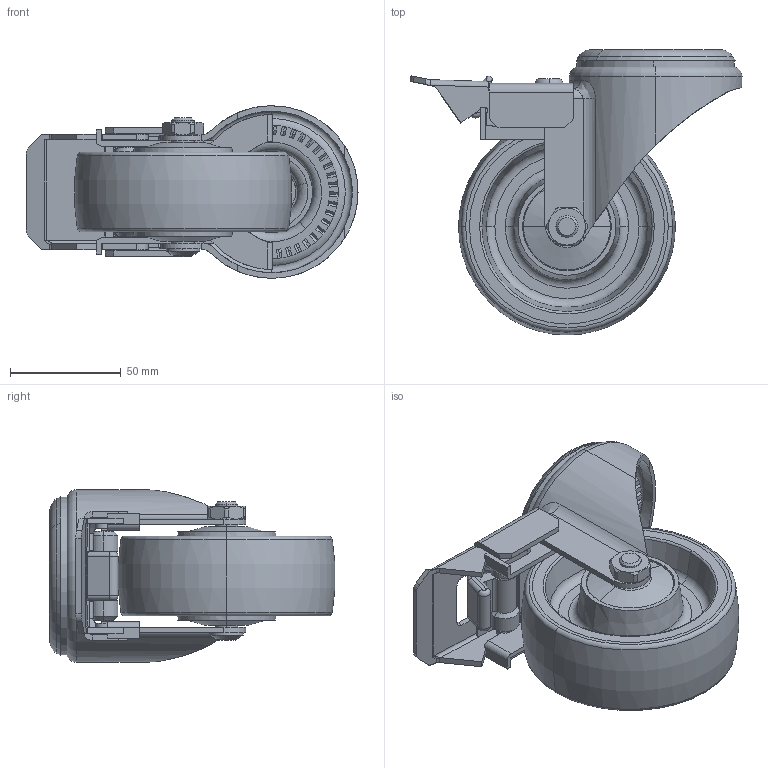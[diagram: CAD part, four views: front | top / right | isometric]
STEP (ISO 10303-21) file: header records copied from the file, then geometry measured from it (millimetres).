
FILE_DESCRIPTION (( 'STEP AP203' ), '1' );
FILE_NAME ('400530_STEP.STEP', '2011-08-29T07:23:49', ( '' ), ( '' ), 'SwSTEP 2.0', 'SolidWorks 2011', '' );
FILE_SCHEMA (( 'CONFIG_CONTROL_DESIGN' ));
Length unit declared in the file: millimetre
Products named in the file (1): 400530_STEP
Bounding box: 149.66 x 128.86 x 77.8 mm (x, y, z)
Surface area: 99301.6 mm2 (no closed solid volume)
Topology: 0 solids, 24 shells, 541 faces, 1825 edges, 1249 vertices
Faces by surface type: plane 262, cylinder 160, torus 63, cone 44, bspline 8, sphere 4
Entity records: 20982 total; most frequent: CARTESIAN_POINT 5211, DIRECTION 3357, ORIENTED_EDGE 3058, EDGE_CURVE 1823, VERTEX_POINT 1249, AXIS2_PLACEMENT_3D 1195, VECTOR 967, LINE 967
